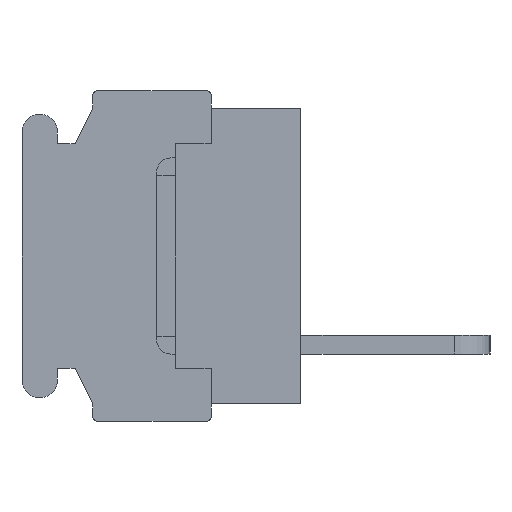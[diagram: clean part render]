
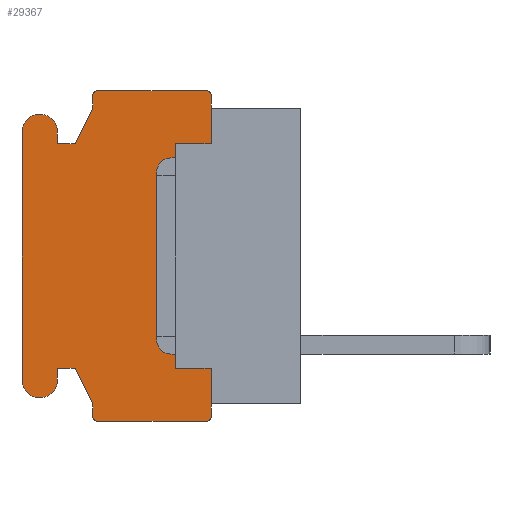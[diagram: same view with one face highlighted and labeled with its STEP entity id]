
A CAD part, left-side view. The second image highlights one B-rep face of the part: STEP entity #29367.
In plain terms, the highlighted planar face has unit normal (-1, 0, 0).
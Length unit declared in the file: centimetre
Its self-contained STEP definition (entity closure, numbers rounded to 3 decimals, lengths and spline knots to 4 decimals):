
#1662=PLANE('',#48305);
#2413=VECTOR('',#30797,1.);
#4458=VECTOR('',#35335,1.);
#4459=VECTOR('',#35336,1.);
#4460=VECTOR('',#35339,1.);
#4461=VECTOR('',#35342,1.);
#4462=VECTOR('',#35343,1.);
#4463=VECTOR('',#35344,1.);
#4464=VECTOR('',#35345,1.);
#4465=VECTOR('',#35348,1.);
#4466=VECTOR('',#35351,1.);
#4467=VECTOR('',#35352,1.);
#4468=VECTOR('',#35353,1.);
#4469=VECTOR('',#35354,1.);
#4470=VECTOR('',#35357,1.);
#4471=VECTOR('',#35360,1.);
#4472=VECTOR('',#35361,1.);
#4473=VECTOR('',#35362,1.);
#4474=VECTOR('',#35363,1.);
#5505=LINE('',#38146,#2413);
#7550=LINE('',#44767,#4458);
#7551=LINE('',#44769,#4459);
#7552=LINE('',#44773,#4460);
#7553=LINE('',#44777,#4461);
#7554=LINE('',#44779,#4462);
#7555=LINE('',#44781,#4463);
#7556=LINE('',#44783,#4464);
#7557=LINE('',#44787,#4465);
#7558=LINE('',#44791,#4466);
#7559=LINE('',#44793,#4467);
#7560=LINE('',#44795,#4468);
#7561=LINE('',#44797,#4469);
#7562=LINE('',#44801,#4470);
#7563=LINE('',#44805,#4471);
#7564=LINE('',#44806,#4472);
#7565=LINE('',#44808,#4473);
#7566=LINE('',#44809,#4474);
#8538=VERTEX_POINT('',#38147);
#8539=VERTEX_POINT('',#38148);
#8643=VERTEX_POINT('',#38433);
#8702=VERTEX_POINT('',#38556);
#10478=VERTEX_POINT('',#44768);
#10479=VERTEX_POINT('',#44770);
#10480=VERTEX_POINT('',#44772);
#10481=VERTEX_POINT('',#44774);
#10482=VERTEX_POINT('',#44776);
#10483=VERTEX_POINT('',#44778);
#10484=VERTEX_POINT('',#44780);
#10485=VERTEX_POINT('',#44782);
#10486=VERTEX_POINT('',#44784);
#10487=VERTEX_POINT('',#44786);
#10488=VERTEX_POINT('',#44788);
#10489=VERTEX_POINT('',#44790);
#10490=VERTEX_POINT('',#44792);
#10491=VERTEX_POINT('',#44794);
#10492=VERTEX_POINT('',#44796);
#10493=VERTEX_POINT('',#44798);
#10494=VERTEX_POINT('',#44800);
#10495=VERTEX_POINT('',#44802);
#10496=VERTEX_POINT('',#44804);
#10497=VERTEX_POINT('',#44807);
#11486=CIRCLE('',#48306,0.02);
#11487=CIRCLE('',#48307,0.02);
#11488=CIRCLE('',#48308,0.075);
#11489=CIRCLE('',#48309,0.075);
#11490=CIRCLE('',#48310,0.02);
#11491=CIRCLE('',#48311,0.02);
#12300=EDGE_CURVE('',#8538,#8539,#5505,.T.);
#15235=EDGE_CURVE('',#10478,#8643,#7550,.T.);
#15236=EDGE_CURVE('',#10479,#8643,#7551,.T.);
#15237=EDGE_CURVE('',#10480,#10479,#11486,.T.);
#15238=EDGE_CURVE('',#10481,#10480,#7552,.T.);
#15239=EDGE_CURVE('',#10482,#10481,#11487,.T.);
#15240=EDGE_CURVE('',#10483,#10482,#7553,.T.);
#15241=EDGE_CURVE('',#10484,#10483,#7554,.T.);
#15242=EDGE_CURVE('',#10485,#10484,#7555,.T.);
#15243=EDGE_CURVE('',#10486,#10485,#7556,.T.);
#15244=EDGE_CURVE('',#10487,#10486,#11488,.T.);
#15245=EDGE_CURVE('',#10488,#10487,#7557,.T.);
#15246=EDGE_CURVE('',#10489,#10488,#11489,.T.);
#15247=EDGE_CURVE('',#10490,#10489,#7558,.T.);
#15248=EDGE_CURVE('',#10491,#10490,#7559,.T.);
#15249=EDGE_CURVE('',#10492,#10491,#7560,.T.);
#15250=EDGE_CURVE('',#10493,#10492,#7561,.T.);
#15251=EDGE_CURVE('',#10494,#10493,#11490,.T.);
#15252=EDGE_CURVE('',#10495,#10494,#7562,.T.);
#15253=EDGE_CURVE('',#10496,#10495,#11491,.T.);
#15254=EDGE_CURVE('',#8702,#10496,#7563,.T.);
#15255=EDGE_CURVE('',#8702,#10497,#7564,.T.);
#15256=EDGE_CURVE('',#10497,#8538,#7565,.T.);
#15257=EDGE_CURVE('',#8539,#10478,#7566,.T.);
#23239=ORIENTED_EDGE('',*,*,#15235,.T.);
#23240=ORIENTED_EDGE('',*,*,#15236,.F.);
#23241=ORIENTED_EDGE('',*,*,#15237,.F.);
#23242=ORIENTED_EDGE('',*,*,#15238,.F.);
#23243=ORIENTED_EDGE('',*,*,#15239,.F.);
#23244=ORIENTED_EDGE('',*,*,#15240,.F.);
#23245=ORIENTED_EDGE('',*,*,#15241,.F.);
#23246=ORIENTED_EDGE('',*,*,#15242,.F.);
#23247=ORIENTED_EDGE('',*,*,#15243,.F.);
#23248=ORIENTED_EDGE('',*,*,#15244,.F.);
#23249=ORIENTED_EDGE('',*,*,#15245,.F.);
#23250=ORIENTED_EDGE('',*,*,#15246,.F.);
#23251=ORIENTED_EDGE('',*,*,#15247,.F.);
#23252=ORIENTED_EDGE('',*,*,#15248,.F.);
#23253=ORIENTED_EDGE('',*,*,#15249,.F.);
#23254=ORIENTED_EDGE('',*,*,#15250,.F.);
#23255=ORIENTED_EDGE('',*,*,#15251,.F.);
#23256=ORIENTED_EDGE('',*,*,#15252,.F.);
#23257=ORIENTED_EDGE('',*,*,#15253,.F.);
#23258=ORIENTED_EDGE('',*,*,#15254,.F.);
#23259=ORIENTED_EDGE('',*,*,#15255,.T.);
#23260=ORIENTED_EDGE('',*,*,#15256,.T.);
#23261=ORIENTED_EDGE('',*,*,#12300,.T.);
#23262=ORIENTED_EDGE('',*,*,#15257,.T.);
#25955=EDGE_LOOP('',(#23239,#23240,#23241,#23242,#23243,#23244,#23245,#23246,
#23247,#23248,#23249,#23250,#23251,#23252,#23253,#23254,#23255,#23256,#23257,
#23258,#23259,#23260,#23261,#23262));
#27745=FACE_BOUND('',#25955,.T.);
#29367=ADVANCED_FACE('',(#27745),#1662,.F.);
#30797=DIRECTION('',(0.,0.,1.));
#35334=DIRECTION('',(1.,0.,0.));
#35335=DIRECTION('',(0.,0.,1.));
#35336=DIRECTION('',(0.,0.,-1.));
#35337=DIRECTION('',(1.,0.,0.));
#35338=DIRECTION('',(0.,0.,-0.02));
#35339=DIRECTION('',(0.,-1.,0.));
#35340=DIRECTION('',(1.,0.,0.));
#35341=DIRECTION('',(0.,0.,-0.02));
#35342=DIRECTION('',(0.,0.,1.));
#35343=DIRECTION('',(0.,-0.447,0.894));
#35344=DIRECTION('',(0.,-1.,0.));
#35345=DIRECTION('',(0.,0.,-1.));
#35346=DIRECTION('',(1.,0.,0.));
#35347=DIRECTION('',(0.,0.,-0.075));
#35348=DIRECTION('',(0.,0.,1.));
#35349=DIRECTION('',(1.,0.,0.));
#35350=DIRECTION('',(0.,0.,-0.075));
#35351=DIRECTION('',(0.,0.,-1.));
#35352=DIRECTION('',(0.,1.,0.));
#35353=DIRECTION('',(0.,0.447,0.894));
#35354=DIRECTION('',(0.,0.,1.));
#35355=DIRECTION('',(1.,0.,0.));
#35356=DIRECTION('',(0.,0.,-0.02));
#35357=DIRECTION('',(0.,1.,0.));
#35358=DIRECTION('',(1.,0.,0.));
#35359=DIRECTION('',(0.,0.,-0.02));
#35360=DIRECTION('',(0.,0.,-1.));
#35361=DIRECTION('',(0.,0.,1.));
#35362=DIRECTION('',(0.,1.,0.));
#35363=DIRECTION('',(0.,-1.,0.));
#38146=CARTESIAN_POINT('',(-0.762,0.53,0.));
#38147=CARTESIAN_POINT('',(-0.762,0.53,-0.475));
#38148=CARTESIAN_POINT('',(-0.762,0.53,0.475));
#38433=CARTESIAN_POINT('',(-0.762,0.38,0.625));
#38556=CARTESIAN_POINT('',(-0.762,0.38,-0.625));
#44766=CARTESIAN_POINT('',(-0.762,0.6059,0.));
#44767=CARTESIAN_POINT('',(-0.762,0.38,0.275));
#44768=CARTESIAN_POINT('',(-0.762,0.38,0.475));
#44769=CARTESIAN_POINT('',(-0.762,0.38,0.68));
#44770=CARTESIAN_POINT('',(-0.762,0.38,0.68));
#44771=CARTESIAN_POINT('',(-0.762,0.4,0.68));
#44772=CARTESIAN_POINT('',(-0.762,0.4,0.7));
#44773=CARTESIAN_POINT('',(-0.762,0.86,0.7));
#44774=CARTESIAN_POINT('',(-0.762,0.86,0.7));
#44775=CARTESIAN_POINT('',(-0.762,0.86,0.68));
#44776=CARTESIAN_POINT('',(-0.762,0.88,0.68));
#44777=CARTESIAN_POINT('',(-0.762,0.88,0.625));
#44778=CARTESIAN_POINT('',(-0.762,0.88,0.625));
#44779=CARTESIAN_POINT('',(-0.762,0.955,0.475));
#44780=CARTESIAN_POINT('',(-0.762,0.955,0.475));
#44781=CARTESIAN_POINT('',(-0.762,1.03,0.475));
#44782=CARTESIAN_POINT('',(-0.762,1.03,0.475));
#44783=CARTESIAN_POINT('',(-0.762,1.03,0.525));
#44784=CARTESIAN_POINT('',(-0.762,1.03,0.525));
#44785=CARTESIAN_POINT('',(-0.762,1.105,0.525));
#44786=CARTESIAN_POINT('',(-0.762,1.18,0.525));
#44787=CARTESIAN_POINT('',(-0.762,1.18,-0.525));
#44788=CARTESIAN_POINT('',(-0.762,1.18,-0.525));
#44789=CARTESIAN_POINT('',(-0.762,1.105,-0.525));
#44790=CARTESIAN_POINT('',(-0.762,1.03,-0.525));
#44791=CARTESIAN_POINT('',(-0.762,1.03,-0.475));
#44792=CARTESIAN_POINT('',(-0.762,1.03,-0.475));
#44793=CARTESIAN_POINT('',(-0.762,0.955,-0.475));
#44794=CARTESIAN_POINT('',(-0.762,0.955,-0.475));
#44795=CARTESIAN_POINT('',(-0.762,0.88,-0.625));
#44796=CARTESIAN_POINT('',(-0.762,0.88,-0.625));
#44797=CARTESIAN_POINT('',(-0.762,0.88,-0.68));
#44798=CARTESIAN_POINT('',(-0.762,0.88,-0.68));
#44799=CARTESIAN_POINT('',(-0.762,0.86,-0.68));
#44800=CARTESIAN_POINT('',(-0.762,0.86,-0.7));
#44801=CARTESIAN_POINT('',(-0.762,0.4,-0.7));
#44802=CARTESIAN_POINT('',(-0.762,0.4,-0.7));
#44803=CARTESIAN_POINT('',(-0.762,0.4,-0.68));
#44804=CARTESIAN_POINT('',(-0.762,0.38,-0.68));
#44805=CARTESIAN_POINT('',(-0.762,0.38,-0.625));
#44806=CARTESIAN_POINT('',(-0.762,0.38,-0.275));
#44807=CARTESIAN_POINT('',(-0.762,0.38,-0.475));
#44808=CARTESIAN_POINT('',(-0.762,0.5304,-0.475));
#44809=CARTESIAN_POINT('',(-0.762,0.5304,0.475));
#48305=AXIS2_PLACEMENT_3D('',#44766,#35334,$);
#48306=AXIS2_PLACEMENT_3D('',#44771,#35337,#35338);
#48307=AXIS2_PLACEMENT_3D('',#44775,#35340,#35341);
#48308=AXIS2_PLACEMENT_3D('',#44785,#35346,#35347);
#48309=AXIS2_PLACEMENT_3D('',#44789,#35349,#35350);
#48310=AXIS2_PLACEMENT_3D('',#44799,#35355,#35356);
#48311=AXIS2_PLACEMENT_3D('',#44803,#35358,#35359);
